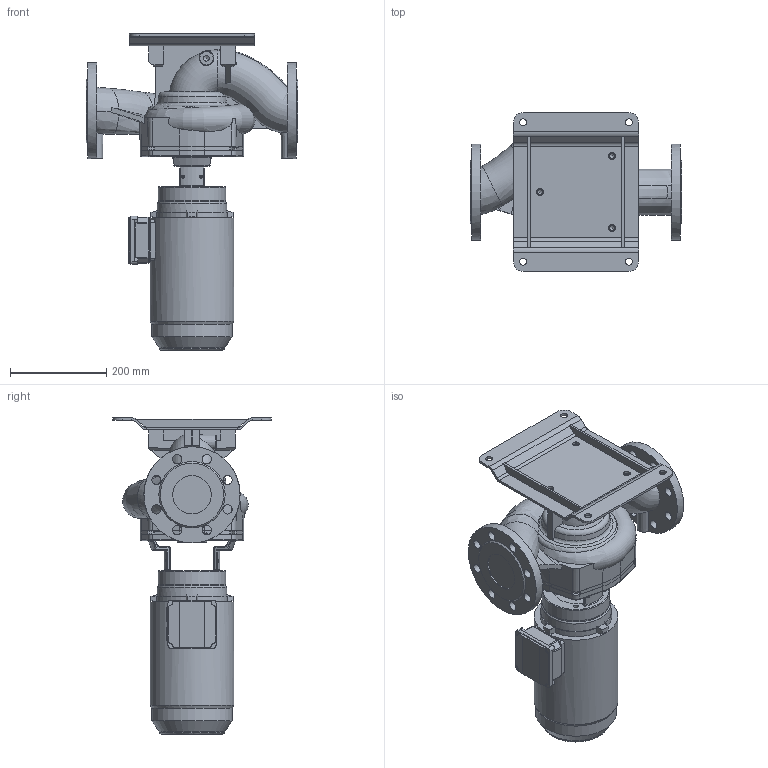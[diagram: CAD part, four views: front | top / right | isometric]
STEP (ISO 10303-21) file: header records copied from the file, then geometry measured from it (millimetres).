
FILE_DESCRIPTION (( 'STEP AP203' ), '1' );
FILE_NAME ('KI80-145_4_1,5kW.STEP', '2024-07-29T10:38:59', ( '' ), ( '' ), 'SwSTEP 2.0', 'SolidWorks 2023', '' );
FILE_SCHEMA (( 'CONFIG_CONTROL_DESIGN' ));
Products named in the file (11): 230034; 230406; 230407; 230501; 220542; HMA3_90L-4_solid; KI80-145_4_1,5kW; 230500; 230033; 230031; 220543
Assembly tree (11 placements, depth 3):
  KI80-145_4_1,5kW
    HMA3_90L-4_solid
    230407
      230406
    230501
      230500
    220543
      220542
    230034
      230031
      230033  x2
Bounding box: 440 x 330.18 x 657.94 mm (x, y, z)
Volume: 17776255.4 mm3; surface area: 1109742.2 mm2
Topology: 7 solids, 7 shells, 862 faces, 2259 edges, 1406 vertices
Faces by surface type: plane 314, cylinder 278, bspline 108, cone 78, torus 70, sphere 14
Full cylindrical faces by diameter (mm): 5 x8, 6 x3, 6.8 x4, 7 x8, 10 x4, 10.2 x7, 11.8 x4, 14 x4, 14.5 x7, 19 x16, 80 x2, 95 x1, 136 x1, 140 x3, 164 x1, 168.6 x1, 174.6 x1, 189 x1, 200 x2
Entity records: 83990 total; most frequent: CARTESIAN_POINT 63188, ORIENTED_EDGE 4116, DIRECTION 3931, EDGE_CURVE 2058, AXIS2_PLACEMENT_3D 1530, VERTEX_POINT 1349, EDGE_LOOP 1073, FACE_OUTER_BOUND 935
